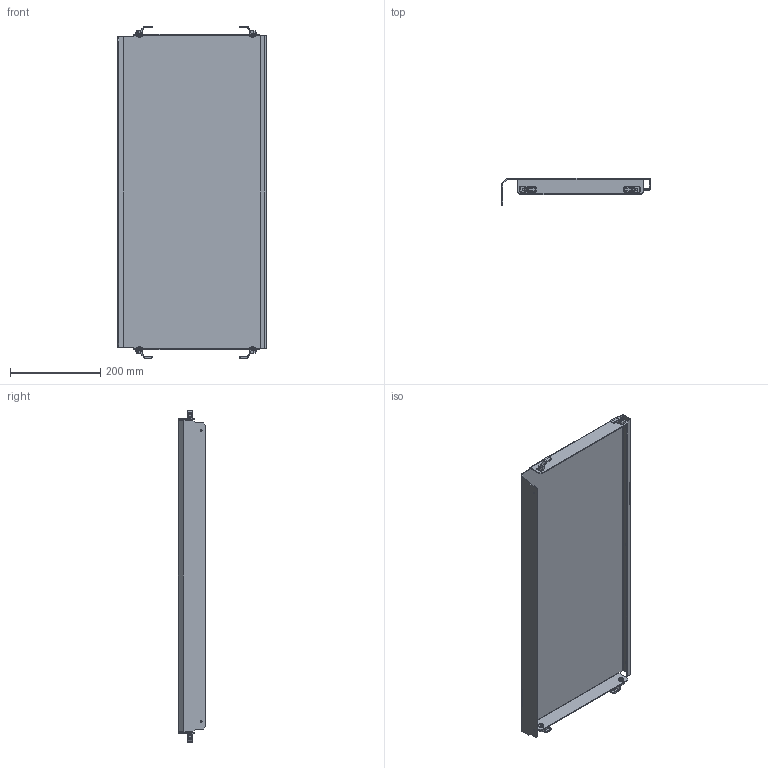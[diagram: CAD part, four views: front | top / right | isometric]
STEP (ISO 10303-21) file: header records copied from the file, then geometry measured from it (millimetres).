
FILE_DESCRIPTION(('CAx-IF Rec.Pracs.---Model Styling and Organization---1.2---2011-12-15','CAx-IF Rec.Pracs.---Geometric and Assembly Validation Properties---4.1---2014-06-16','CAx-IF Rec.Pracs.---PMI Polyline Presentation---2.0---2013-05-24'),'2;1');
FILE_NAME('R5D280.stp','2021-05-05T15:01:47+03:00',(''),(''),'STEP Interface 4.4 by CT CoreTechnologie','3D_Evolution4.4 by CT CoreTechnologie','');
FILE_SCHEMA(('AUTOMOTIVE_DESIGN { 1 0 10303 214 1 1 1 1 }'));
Length unit declared in the file: millimetre
Products named in the file (4): R5D280; M6x16-DIN 7985 ISR_thread; AC00C485; RB.0539.00.00.0_-01
Assembly tree (9 placements, depth 2):
  R5D280
    M6x16-DIN 7985 ISR_thread  x4
    AC00C485  x4
    RB.0539.00.00.0_-01
Bounding box: 328 x 60 x 735 mm (x, y, z)
Surface area: 619784.8 mm2 (no closed solid volume)
Topology: 0 solids, 13 shells, 438 faces, 1084 edges, 660 vertices
Faces by surface type: plane 192, cylinder 190, bspline 56
Entity records: 5646 total; most frequent: CARTESIAN_POINT 1355, DIRECTION 859, ORIENTED_EDGE 828, EDGE_CURVE 414, AXIS2_PLACEMENT_3D 298, VECTOR 263, LINE 263, VERTEX_POINT 258
